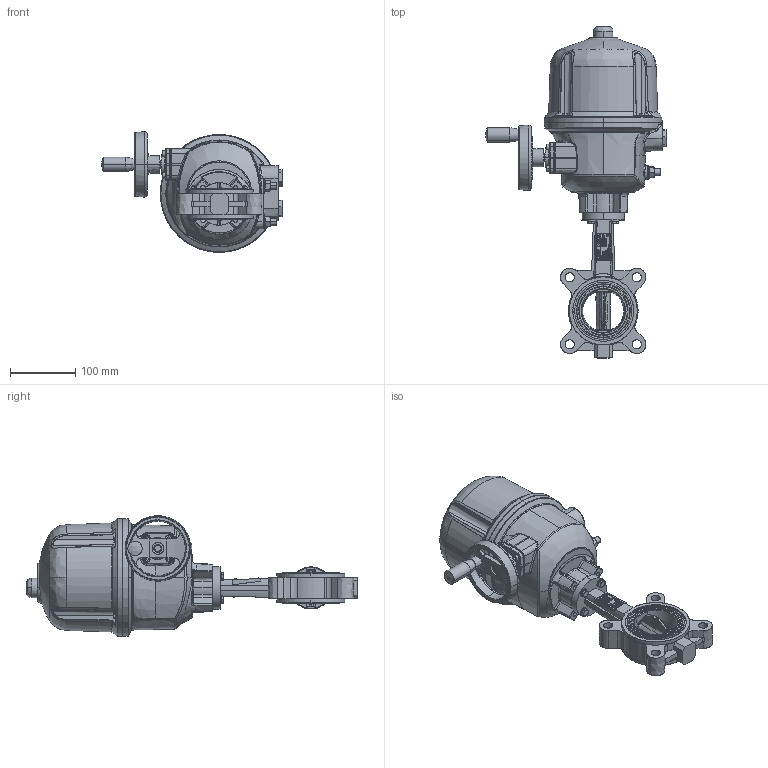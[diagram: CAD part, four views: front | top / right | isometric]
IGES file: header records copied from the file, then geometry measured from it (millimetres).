
Start section: SolidWorks IGES file using analytic representation for surfaces
Global section: file name: H:\BE FABRICATION\BE SERIE\VP\VP SERIE\F072 VPG\plan 3D\VPG-BX4\LUG\DN65\VPG464X-BX4XX0065.igs; native system: SolidWorks 2020; preprocessor: SolidWorks 2020; author: k.gigout; date: 220920.132812; units: millimetre
Bounding box: 275.33 x 507.68 x 184.41 mm (x, y, z)
Surface area: 297895.1 mm2 (no closed solid volume)
Topology: 0 solids, 0 shells, 1102 faces, 20740 edges, 20701 vertices
Faces by surface type: bspline 773, revolution 329
